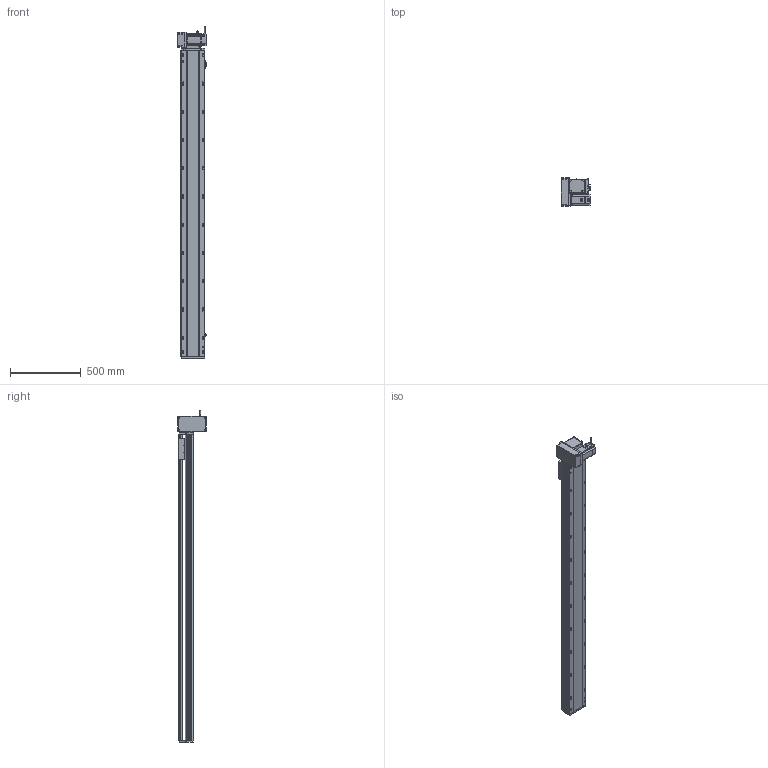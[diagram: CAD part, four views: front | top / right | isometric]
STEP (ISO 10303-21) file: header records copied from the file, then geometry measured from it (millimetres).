
FILE_DESCRIPTION (( 'STEP AP214' ), '1' );
FILE_NAME ('RTB17S-XX-1900-LM-M75-C4.STEP', '2025-12-12T00:43:44', ( '' ), ( '' ), 'SwSTEP 2.0', 'SolidWorks 2018', '' );
FILE_SCHEMA (( 'AUTOMOTIVE_DESIGN' ));
Length unit declared in the file: millimetre
Products named in the file (15): RTB22S-GY-018P^RTB17S-LM-々湍釱蚾饜-750W_RTB17S-XX-XX-LM-M75-C4; RTB17S-L-007奻裔^RTB17S-XX-XX-LM-M75-C4; RTH13-BL-012覜茼え俋离^RTB17S-賑釱_RTB17S-XX-XX-LM-M75-C4; RTB17S-L-004-賑釱^RTB17S-賑釱_RTB17S-XX-XX-LM-M75-C4; RTB17S-L-001-耜醱啣^RTB17S-XX-XX-LM-M75-C4; RTB22S-GY-017P^RTB17S-LM-々湍釱蚾饜-750W_RTB17S-XX-XX-LM-M75-C4; RTB17S-XX-1900-LM-M75-C4; RTB17-R-011菁釱^RTB17S-XX-XX-LM-M75-C4; RTB22S-GY-005P^RTB17S-LM-々湍釱蚾饜-750W_RTB17S-XX-XX-LM-M75-C4; RTB17S-L-014-T20-P75--々湍釱^RTB17S-LM-々湍釱蚾饜-750W_RTB17S-XX-XX-LM-M75-C4; EE672^RTB17S-XX-XX-LM-M75-C4; 750W萇儂^RTB17S-XX-XX-LM-M75-C4; RTB17S-賑釱^RTB17S-XX-XX-LM-M75-C4; RTB22S-GY-008-M75--萇儂啣^RTB17S-LM-々湍釱蚾饜-750W_RTB17S-XX-XX-LM-M75-C4; RTB17S-LM-々湍釱蚾饜-750W^RTB17S-XX-XX-LM-M75-C4
Assembly tree (17 placements, depth 3):
  RTB17S-XX-1900-LM-M75-C4
    RTB17-R-011菁釱^RTB17S-XX-XX-LM-M75-C4
    EE672^RTB17S-XX-XX-LM-M75-C4  x3
    RTB17S-L-001-耜醱啣^RTB17S-XX-XX-LM-M75-C4
    RTB17S-賑釱^RTB17S-XX-XX-LM-M75-C4
      RTB17S-L-004-賑釱^RTB17S-賑釱_RTB17S-XX-XX-LM-M75-C4
      RTH13-BL-012覜茼え俋离^RTB17S-賑釱_RTB17S-XX-XX-LM-M75-C4
    RTB17S-L-007奻裔^RTB17S-XX-XX-LM-M75-C4
    750W萇儂^RTB17S-XX-XX-LM-M75-C4
    RTB17S-LM-々湍釱蚾饜-750W^RTB17S-XX-XX-LM-M75-C4
      RTB17S-L-014-T20-P75--々湍釱^RTB17S-LM-々湍釱蚾饜-750W_RTB17S-XX-XX-LM-M75-C4
      RTB22S-GY-005P^RTB17S-LM-々湍釱蚾饜-750W_RTB17S-XX-XX-LM-M75-C4
      RTB22S-GY-017P^RTB17S-LM-々湍釱蚾饜-750W_RTB17S-XX-XX-LM-M75-C4  x2
      RTB22S-GY-008-M75--萇儂啣^RTB17S-LM-々湍釱蚾饜-750W_RTB17S-XX-XX-LM-M75-C4
      RTB22S-GY-018P^RTB17S-LM-々湍釱蚾饜-750W_RTB17S-XX-XX-LM-M75-C4
Bounding box: 210.4 x 200 x 2352.2 mm (x, y, z)
Volume: 17824560.9 mm3; surface area: 3177314.7 mm2
Topology: 17 solids, 17 shells, 2169 faces, 6052 edges, 3914 vertices
Faces by surface type: plane 980, cylinder 773, bspline 294, cone 110, sphere 8, torus 4
Entity records: 61942 total; most frequent: CARTESIAN_POINT 18316, ORIENTED_EDGE 8948, DIRECTION 8312, EDGE_CURVE 4474, AXIS2_PLACEMENT_3D 2934, VERTEX_POINT 2918, VECTOR 2444, LINE 2444
